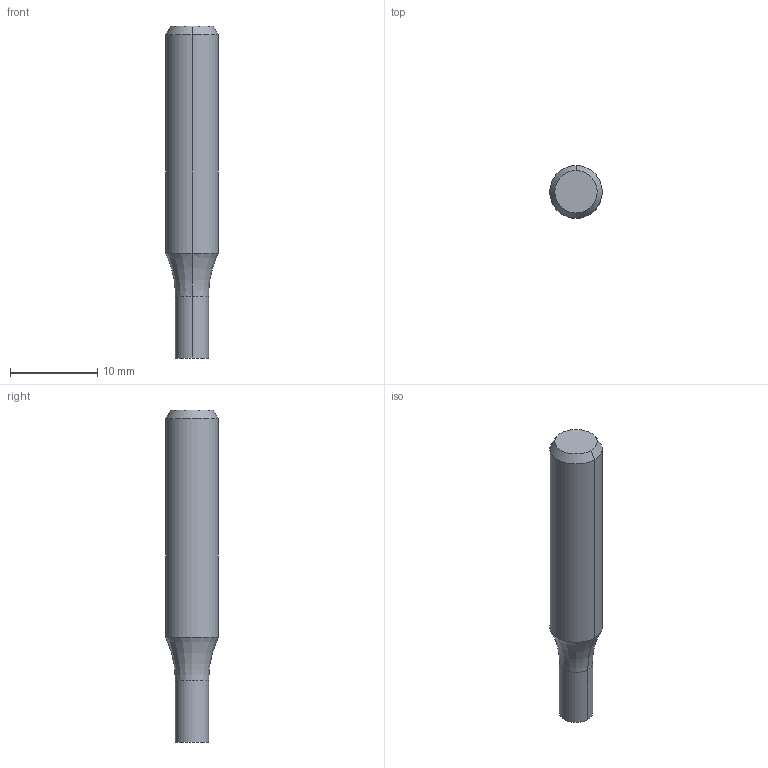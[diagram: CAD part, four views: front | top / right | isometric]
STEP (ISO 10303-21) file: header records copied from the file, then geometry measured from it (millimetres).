
FILE_DESCRIPTION((''),'2;1');
FILE_NAME('DIN4003_82_HEURO','2018-10-10T',('automd'),(''),'PRO/ENGINEER BY PARAMETRIC TECHNOLOGY CORPORATION, 2015280','PRO/ENGINEER BY PARAMETRIC TECHNOLOGY CORPORATION, 2015280','');
FILE_SCHEMA(('AUTOMOTIVE_DESIGN { 1 0 10303 214 1 1 1 1 }'));
Length unit declared in the file: millimetre
Products named in the file (1): DIN4003_82_HEURO
Bounding box: 6 x 6 x 38 mm (x, y, z)
Volume: 891.3 mm3; surface area: 677.8 mm2
Topology: 1 solids, 1 shells, 10 faces, 20 edges, 13 vertices
Faces by surface type: bspline 10
Entity records: 753 total; most frequent: CARTESIAN_POINT 327, DIRECTION 61, ORIENTED_EDGE 36, AXIS2_PLACEMENT_3D 24, PRESENTATION_STYLE_ASSIGNMENT 20, STYLED_ITEM 20, COLOUR_RGB 18, EDGE_CURVE 18
